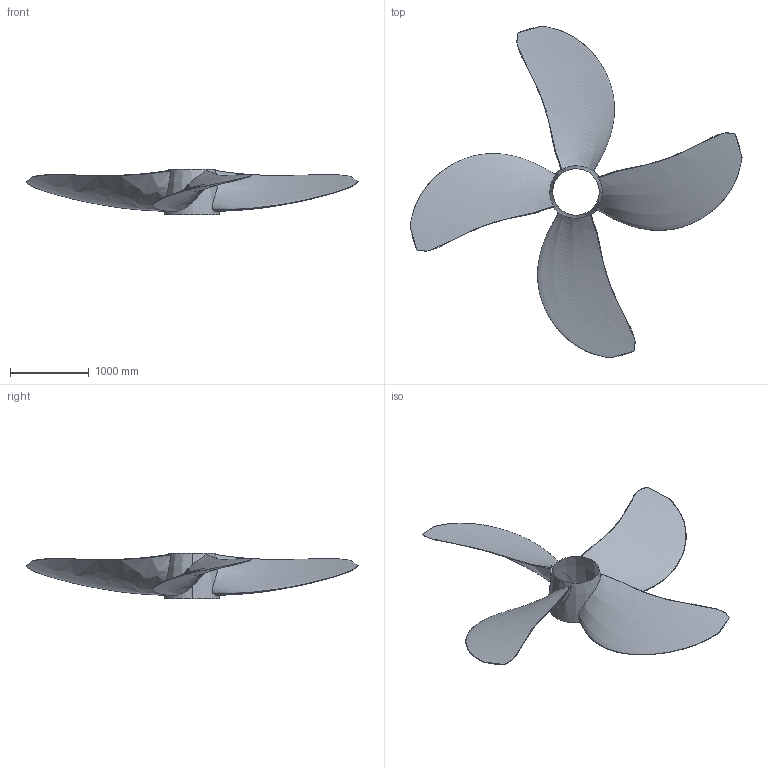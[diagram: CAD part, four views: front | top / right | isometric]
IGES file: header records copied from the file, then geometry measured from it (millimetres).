
Start section: START RECORD GO HERE.
Global section: file name: KVLCC1prop.igs; native system: IBM CATIA IGES - CATIA Version 5 Release 15 ; preprocessor: CATIA Version 5 Release 15 ; author: ats; organization: FT; date: 20051213.134942; units: millimetre
Bounding box: 4227.28 x 4227.28 x 580.64 mm (x, y, z)
Surface area: 14189847 mm2 (no closed solid volume)
Topology: 0 solids, 0 shells, 10 faces, 40 edges, 40 vertices
Faces by surface type: bspline 10
